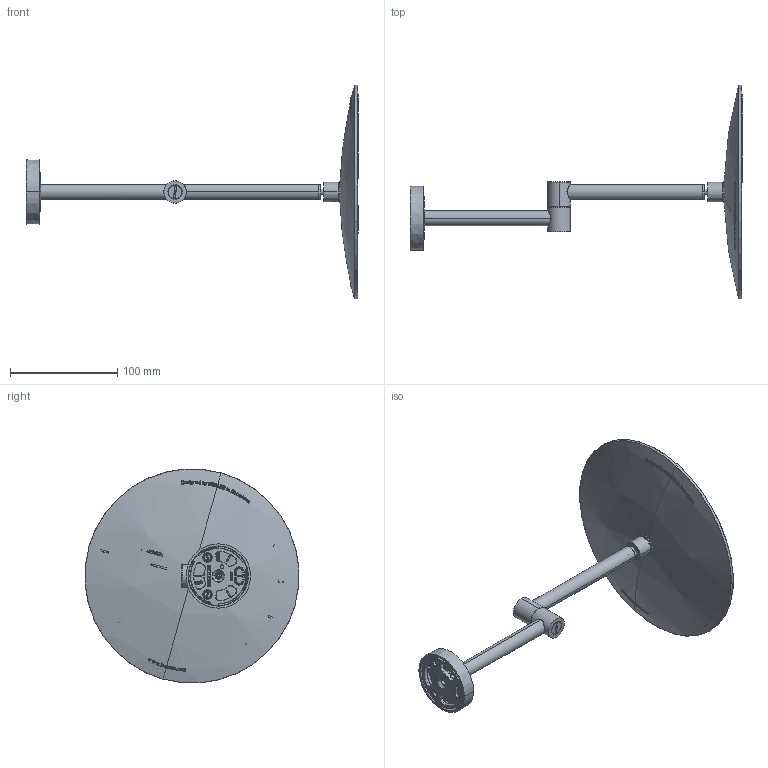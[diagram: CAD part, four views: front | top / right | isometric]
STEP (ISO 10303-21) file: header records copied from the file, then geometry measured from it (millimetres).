
FILE_DESCRIPTION (( 'STEP AP203' ), '1' );
FILE_NAME ('3-86151-0001D3S.STEP', '2023-10-19T02:34:41', ( '' ), ( '' ), 'SwSTEP 2.0', 'SolidWorks 2016', '' );
FILE_SCHEMA (( 'CONFIG_CONTROL_DESIGN' ));
Length unit declared in the file: millimetre
Products named in the file (1): 3-86151-0001D3S
Bounding box: 309.63 x 199.44 x 199.44 mm (x, y, z)
Volume: 168169.7 mm3; surface area: 172785.6 mm2
Topology: 20 solids, 20 shells, 3058 faces, 7602 edges, 4669 vertices
Faces by surface type: bspline 966, plane 789, cylinder 400, torus 393, sphere 342, cone 168
Entity records: 125349 total; most frequent: CARTESIAN_POINT 57856, ORIENTED_EDGE 15070, DIRECTION 12804, EDGE_CURVE 7535, AXIS2_PLACEMENT_3D 5228, VERTEX_POINT 4656, EDGE_LOOP 3247, CIRCLE 3135
